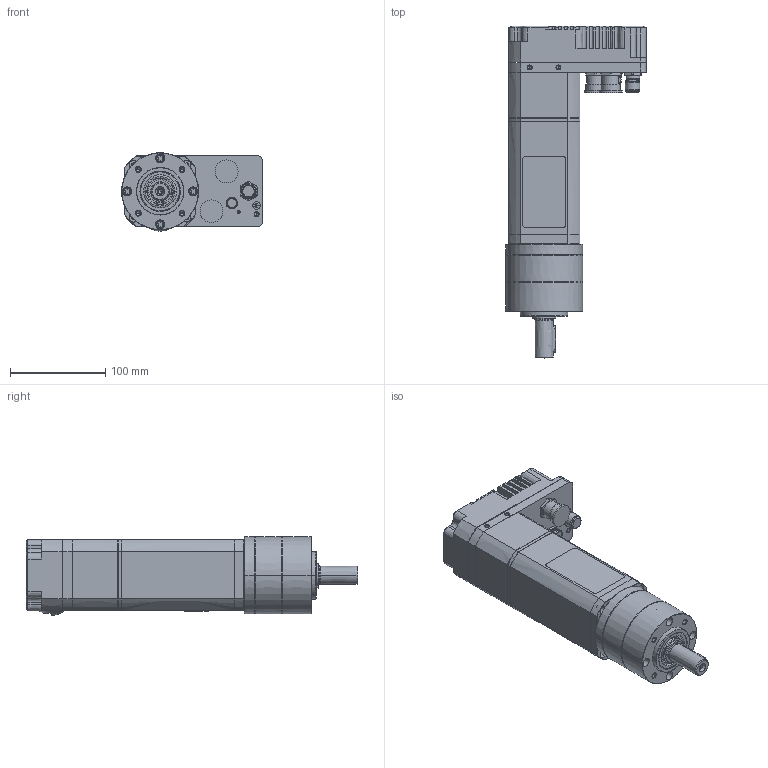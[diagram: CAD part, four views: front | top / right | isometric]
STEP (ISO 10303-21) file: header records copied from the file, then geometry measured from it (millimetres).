
FILE_DESCRIPTION((''),'2;1');
FILE_NAME('8037E1_1STAGE','2018-09-17T',('alecma1'),('CROUZET-AUTOMATISMES'),'CREO PARAMETRIC BY PTC INC, 2017170','CREO PARAMETRIC BY PTC INC, 2017170','');
FILE_SCHEMA(('AP203_CONFIGURATION_CONTROLLED_3D_DESIGN_OF_MECHANICAL_PARTS_AND_ASSEMBLIES_MIM_LF { 1 0 10303 403 2 1 2 }'));
Products named in the file (1): 8037E1_1STAGE
Bounding box: 148 x 349.15 x 82.5 mm (x, y, z)
Surface area: 166415.6 mm2 (no closed solid volume)
Topology: 0 solids, 0 shells, 782 faces, 4082 edges, 4015 vertices
Faces by surface type: bspline 730, torus 48, sphere 4
Entity records: 78892 total; most frequent: CARTESIAN_POINT 36111, DIRECTION 6285, TRIMMED_CURVE 5254, VECTOR 4352, LINE 4352, DEFINITIONAL_REPRESENTATION 3969, PCURVE 3969, COMPOSITE_CURVE_SEGMENT 3969
